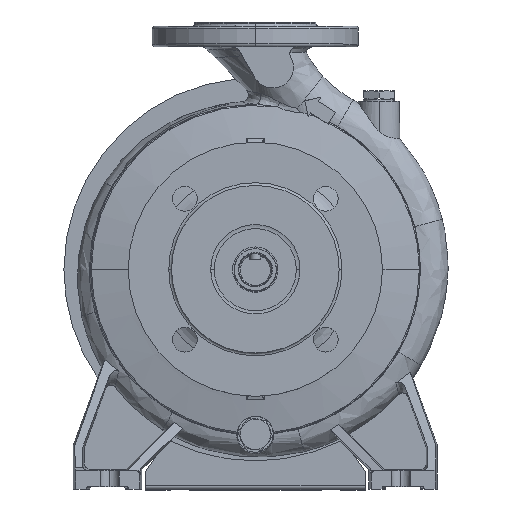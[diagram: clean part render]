
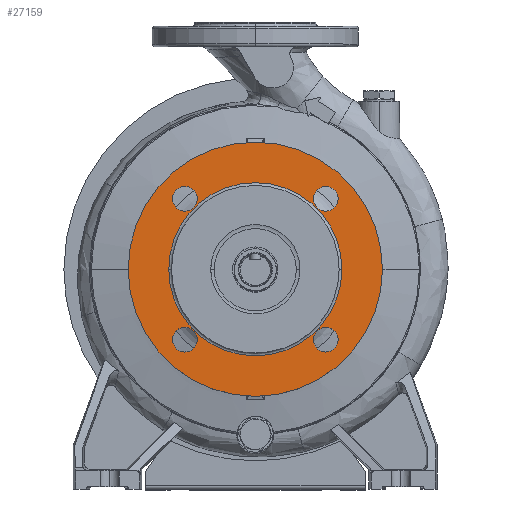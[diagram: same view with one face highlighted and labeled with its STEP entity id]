
A CAD part, top view. The second image highlights one B-rep face of the part: STEP entity #27159.
In plain terms, the highlighted planar face has unit normal (0, 0, 1).
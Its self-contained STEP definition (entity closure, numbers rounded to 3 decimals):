
#75 = DIRECTION ( 'NONE',  ( 1., 0., 0. ) ) ;
#188 = ORIENTED_EDGE ( 'NONE', *, *, #27028, .F. ) ;
#608 = CARTESIAN_POINT ( 'NONE',  ( -60.265, 51.265, 97. ) ) ;
#995 = DIRECTION ( 'NONE',  ( 1., 0., 0. ) ) ;
#1039 = VERTEX_POINT ( 'NONE', #29876 ) ;
#1131 = DIRECTION ( 'NONE',  ( 0., 0., -1. ) ) ;
#1211 = AXIS2_PLACEMENT_3D ( 'NONE', #17920, #23571, #11257 ) ;
#1939 = CIRCLE ( 'NONE', #5824, 92.5 ) ;
#2181 = EDGE_LOOP ( 'NONE', ( #34808, #30738 ) ) ;
#2331 = CARTESIAN_POINT ( 'NONE',  ( 60.265, 51.265, 97. ) ) ;
#2511 = FACE_OUTER_BOUND ( 'NONE', #23300, .T. ) ;
#3100 = CARTESIAN_POINT ( 'NONE',  ( -51.265, 51.265, 97. ) ) ;
#3285 = AXIS2_PLACEMENT_3D ( 'NONE', #33815, #15044, #33420 ) ;
#3900 = VERTEX_POINT ( 'NONE', #7889 ) ;
#5028 = ORIENTED_EDGE ( 'NONE', *, *, #11882, .F. ) ;
#5408 = AXIS2_PLACEMENT_3D ( 'NONE', #26913, #36383, #30323 ) ;
#5519 = EDGE_CURVE ( 'NONE', #23293, #3900, #8225, .T. ) ;
#5824 = AXIS2_PLACEMENT_3D ( 'NONE', #7975, #28951, #26334 ) ;
#6116 = EDGE_CURVE ( 'NONE', #39405, #11139, #32459, .T. ) ;
#6336 = DIRECTION ( 'NONE',  ( 0., 0., 1. ) ) ;
#7889 = CARTESIAN_POINT ( 'NONE',  ( -60.265, -51.265, 97. ) ) ;
#7975 = CARTESIAN_POINT ( 'NONE',  ( 0., 0., 97. ) ) ;
#8155 = DIRECTION ( 'NONE',  ( 1., 0., 0. ) ) ;
#8225 = CIRCLE ( 'NONE', #37179, 9. ) ;
#8443 = CIRCLE ( 'NONE', #13555, 92.5 ) ;
#8704 = EDGE_LOOP ( 'NONE', ( #24972, #21608 ) ) ;
#9090 = AXIS2_PLACEMENT_3D ( 'NONE', #13083, #10471, #995 ) ;
#9420 = DIRECTION ( 'NONE',  ( 1., 0., 0. ) ) ;
#9917 = EDGE_CURVE ( 'NONE', #3900, #23293, #25620, .T. ) ;
#10114 = CARTESIAN_POINT ( 'NONE',  ( 63., 0., 97. ) ) ;
#10471 = DIRECTION ( 'NONE',  ( 0., 0., 1. ) ) ;
#10480 = VERTEX_POINT ( 'NONE', #2331 ) ;
#11139 = VERTEX_POINT ( 'NONE', #16954 ) ;
#11257 = DIRECTION ( 'NONE',  ( -1., 0., 0. ) ) ;
#11610 = AXIS2_PLACEMENT_3D ( 'NONE', #18873, #28143, #36416 ) ;
#11882 = EDGE_CURVE ( 'NONE', #32479, #20020, #16678, .T. ) ;
#11980 = CARTESIAN_POINT ( 'NONE',  ( 60.265, -51.265, 97. ) ) ;
#12444 = DIRECTION ( 'NONE',  ( 0., 0., 1. ) ) ;
#12463 = EDGE_CURVE ( 'NONE', #25681, #29848, #16114, .T. ) ;
#12705 = AXIS2_PLACEMENT_3D ( 'NONE', #20674, #29764, #17025 ) ;
#13083 = CARTESIAN_POINT ( 'NONE',  ( 51.265, 51.265, 97. ) ) ;
#13555 = AXIS2_PLACEMENT_3D ( 'NONE', #38225, #1131, #37847 ) ;
#14048 = EDGE_LOOP ( 'NONE', ( #26693, #29014 ) ) ;
#14812 = CARTESIAN_POINT ( 'NONE',  ( 42.265, -51.265, 97. ) ) ;
#15044 = DIRECTION ( 'NONE',  ( 0., 0., 1. ) ) ;
#15073 = CARTESIAN_POINT ( 'NONE',  ( -51.265, -51.265, 97. ) ) ;
#15479 = DIRECTION ( 'NONE',  ( 0., 0., 1. ) ) ;
#16095 = ORIENTED_EDGE ( 'NONE', *, *, #6116, .F. ) ;
#16114 = CIRCLE ( 'NONE', #1211, 63. ) ;
#16678 = CIRCLE ( 'NONE', #21859, 9. ) ;
#16954 = CARTESIAN_POINT ( 'NONE',  ( -42.265, 51.265, 97. ) ) ;
#17015 = AXIS2_PLACEMENT_3D ( 'NONE', #37467, #12444, #9420 ) ;
#17025 = DIRECTION ( 'NONE',  ( 1., 0., 0. ) ) ;
#17647 = FACE_BOUND ( 'NONE', #29081, .T. ) ;
#17841 = FACE_BOUND ( 'NONE', #32325, .T. ) ;
#17842 = EDGE_CURVE ( 'NONE', #10480, #1039, #23435, .T. ) ;
#17920 = CARTESIAN_POINT ( 'NONE',  ( 0., 0., 97. ) ) ;
#18042 = FACE_BOUND ( 'NONE', #2181, .T. ) ;
#18735 = DIRECTION ( 'NONE',  ( 1., 0., 0. ) ) ;
#18746 = CIRCLE ( 'NONE', #28410, 9. ) ;
#18873 = CARTESIAN_POINT ( 'NONE',  ( 0., 0., 97. ) ) ;
#20020 = VERTEX_POINT ( 'NONE', #14812 ) ;
#20674 = CARTESIAN_POINT ( 'NONE',  ( -51.265, -51.265, 97. ) ) ;
#20714 = EDGE_CURVE ( 'NONE', #1039, #10480, #33553, .T. ) ;
#21274 = PLANE ( 'NONE',  #39340 ) ;
#21608 = ORIENTED_EDGE ( 'NONE', *, *, #35226, .T. ) ;
#21859 = AXIS2_PLACEMENT_3D ( 'NONE', #23665, #38390, #8155 ) ;
#22170 = VERTEX_POINT ( 'NONE', #36232 ) ;
#22244 = CARTESIAN_POINT ( 'NONE',  ( -42.265, -51.265, 97. ) ) ;
#22710 = ORIENTED_EDGE ( 'NONE', *, *, #37763, .F. ) ;
#23293 = VERTEX_POINT ( 'NONE', #22244 ) ;
#23300 = EDGE_LOOP ( 'NONE', ( #188, #30418 ) ) ;
#23435 = CIRCLE ( 'NONE', #17015, 9. ) ;
#23571 = DIRECTION ( 'NONE',  ( 0., 0., -1. ) ) ;
#23665 = CARTESIAN_POINT ( 'NONE',  ( 51.265, -51.265, 97. ) ) ;
#24972 = ORIENTED_EDGE ( 'NONE', *, *, #12463, .T. ) ;
#25620 = CIRCLE ( 'NONE', #12705, 9. ) ;
#25681 = VERTEX_POINT ( 'NONE', #37931 ) ;
#26334 = DIRECTION ( 'NONE',  ( -1., 0., 0. ) ) ;
#26693 = ORIENTED_EDGE ( 'NONE', *, *, #5519, .F. ) ;
#26913 = CARTESIAN_POINT ( 'NONE',  ( -51.265, 51.265, 97. ) ) ;
#26928 = DIRECTION ( 'NONE',  ( -1., 0., 0. ) ) ;
#27028 = EDGE_CURVE ( 'NONE', #22170, #29472, #1939, .T. ) ;
#27128 = FACE_BOUND ( 'NONE', #8704, .T. ) ;
#27159 = ADVANCED_FACE ( 'NONE', ( #17841, #32772, #17647, #18042, #27128, #2511 ), #21274, .F. ) ;
#27931 = EDGE_CURVE ( 'NONE', #20020, #32479, #32251, .T. ) ;
#28143 = DIRECTION ( 'NONE',  ( 0., 0., -1. ) ) ;
#28410 = AXIS2_PLACEMENT_3D ( 'NONE', #3100, #6336, #75 ) ;
#28951 = DIRECTION ( 'NONE',  ( 0., 0., -1. ) ) ;
#29014 = ORIENTED_EDGE ( 'NONE', *, *, #9917, .F. ) ;
#29081 = EDGE_LOOP ( 'NONE', ( #5028, #32919 ) ) ;
#29472 = VERTEX_POINT ( 'NONE', #31353 ) ;
#29764 = DIRECTION ( 'NONE',  ( 0., 0., 1. ) ) ;
#29848 = VERTEX_POINT ( 'NONE', #10114 ) ;
#29876 = CARTESIAN_POINT ( 'NONE',  ( 42.265, 51.265, 97. ) ) ;
#30323 = DIRECTION ( 'NONE',  ( 1., 0., 0. ) ) ;
#30418 = ORIENTED_EDGE ( 'NONE', *, *, #34072, .F. ) ;
#30738 = ORIENTED_EDGE ( 'NONE', *, *, #20714, .F. ) ;
#30931 = CIRCLE ( 'NONE', #11610, 63. ) ;
#31353 = CARTESIAN_POINT ( 'NONE',  ( -92.5, 0., 97. ) ) ;
#32251 = CIRCLE ( 'NONE', #3285, 9. ) ;
#32325 = EDGE_LOOP ( 'NONE', ( #22710, #16095 ) ) ;
#32459 = CIRCLE ( 'NONE', #5408, 9. ) ;
#32479 = VERTEX_POINT ( 'NONE', #11980 ) ;
#32772 = FACE_BOUND ( 'NONE', #14048, .T. ) ;
#32919 = ORIENTED_EDGE ( 'NONE', *, *, #27931, .F. ) ;
#33420 = DIRECTION ( 'NONE',  ( 1., 0., 0. ) ) ;
#33553 = CIRCLE ( 'NONE', #9090, 9. ) ;
#33568 = DIRECTION ( 'NONE',  ( 0., 0., -1. ) ) ;
#33815 = CARTESIAN_POINT ( 'NONE',  ( 51.265, -51.265, 97. ) ) ;
#34072 = EDGE_CURVE ( 'NONE', #29472, #22170, #8443, .T. ) ;
#34808 = ORIENTED_EDGE ( 'NONE', *, *, #17842, .F. ) ;
#35226 = EDGE_CURVE ( 'NONE', #29848, #25681, #30931, .T. ) ;
#36232 = CARTESIAN_POINT ( 'NONE',  ( 92.5, 0., 97. ) ) ;
#36383 = DIRECTION ( 'NONE',  ( 0., 0., 1. ) ) ;
#36416 = DIRECTION ( 'NONE',  ( -1., 0., 0. ) ) ;
#37179 = AXIS2_PLACEMENT_3D ( 'NONE', #15073, #15479, #18735 ) ;
#37467 = CARTESIAN_POINT ( 'NONE',  ( 51.265, 51.265, 97. ) ) ;
#37763 = EDGE_CURVE ( 'NONE', #11139, #39405, #18746, .T. ) ;
#37847 = DIRECTION ( 'NONE',  ( -1., 0., 0. ) ) ;
#37931 = CARTESIAN_POINT ( 'NONE',  ( -63., 0., 97. ) ) ;
#38225 = CARTESIAN_POINT ( 'NONE',  ( 0., 0., 97. ) ) ;
#38390 = DIRECTION ( 'NONE',  ( 0., 0., 1. ) ) ;
#39226 = CARTESIAN_POINT ( 'NONE',  ( 63., 0., 97. ) ) ;
#39340 = AXIS2_PLACEMENT_3D ( 'NONE', #39226, #33568, #26928 ) ;
#39405 = VERTEX_POINT ( 'NONE', #608 ) ;
